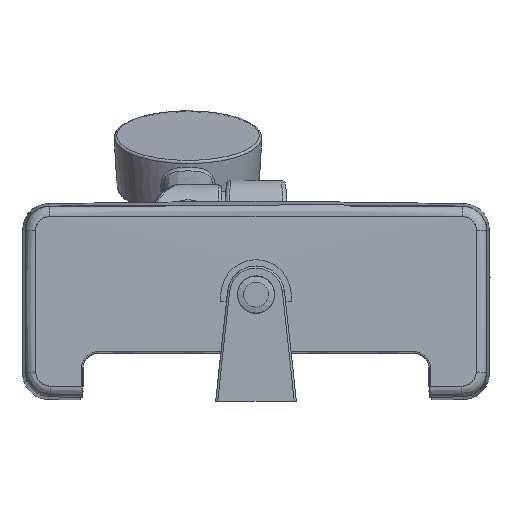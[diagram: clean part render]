
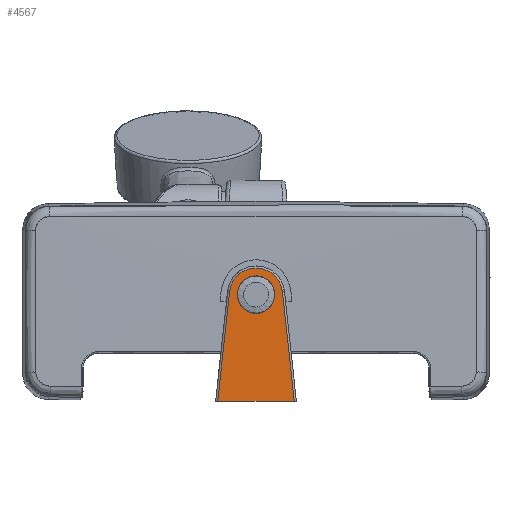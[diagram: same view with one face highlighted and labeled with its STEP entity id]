
A CAD part, front view. The second image highlights one B-rep face of the part: STEP entity #4567.
In plain terms, the highlighted planar face has unit normal (0, -1, 0).
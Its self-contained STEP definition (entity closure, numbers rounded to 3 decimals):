
#19 = EDGE_CURVE ( 'NONE', #12137, #12137, #8511, .T. ) ;
#152 = VECTOR ( 'NONE', #1167, 1000. ) ;
#327 = VERTEX_POINT ( 'NONE', #3715 ) ;
#415 = LINE ( 'NONE', #7618, #152 ) ;
#689 = PLANE ( 'NONE',  #16678 ) ;
#1167 = DIRECTION ( 'NONE',  ( -0.108, 0., -0.994 ) ) ;
#2013 = EDGE_CURVE ( 'NONE', #327, #14890, #415, .T. ) ;
#2268 = DIRECTION ( 'NONE',  ( 1., 0., 0. ) ) ;
#2649 = EDGE_CURVE ( 'NONE', #8306, #17298, #18267, .T. ) ;
#3715 = CARTESIAN_POINT ( 'NONE',  ( -12.502, -350.5, 51.864 ) ) ;
#4362 = ORIENTED_EDGE ( 'NONE', *, *, #2649, .T. ) ;
#4488 = DIRECTION ( 'NONE',  ( -1., 0., 0. ) ) ;
#4567 = ADVANCED_FACE ( 'NONE', ( #13101, #12214 ), #689, .F. ) ;
#5368 = CARTESIAN_POINT ( 'NONE',  ( 0., -350.5, 50.5 ) ) ;
#6977 = ORIENTED_EDGE ( 'NONE', *, *, #19, .T. ) ;
#7618 = CARTESIAN_POINT ( 'NONE',  ( -18.173, -350.5, -0.128 ) ) ;
#7797 = EDGE_LOOP ( 'NONE', ( #6977 ) ) ;
#7975 = CARTESIAN_POINT ( 'NONE',  ( 12.502, -350.5, 51.864 ) ) ;
#8208 = EDGE_CURVE ( 'NONE', #8306, #14890, #19320, .T. ) ;
#8300 = ORIENTED_EDGE ( 'NONE', *, *, #11441, .T. ) ;
#8306 = VERTEX_POINT ( 'NONE', #16716 ) ;
#8511 = CIRCLE ( 'NONE', #8902, 8.9 ) ;
#8797 = DIRECTION ( 'NONE',  ( 0., -1., 0. ) ) ;
#8902 = AXIS2_PLACEMENT_3D ( 'NONE', #11919, #11900, #11895 ) ;
#10251 = CARTESIAN_POINT ( 'NONE',  ( 12.502, -350.5, 51.864 ) ) ;
#10679 = CARTESIAN_POINT ( 'NONE',  ( -19.167, -350.5, -0.02 ) ) ;
#11441 = EDGE_CURVE ( 'NONE', #17298, #327, #14976, .T. ) ;
#11575 = DIRECTION ( 'NONE',  ( 0., 1., 0. ) ) ;
#11754 = DIRECTION ( 'NONE',  ( -0.108, 0., 0.994 ) ) ;
#11895 = DIRECTION ( 'NONE',  ( 0., 0., 1. ) ) ;
#11900 = DIRECTION ( 'NONE',  ( 0., 1., 0. ) ) ;
#11919 = CARTESIAN_POINT ( 'NONE',  ( 0., -350.5, 50.5 ) ) ;
#12137 = VERTEX_POINT ( 'NONE', #19258 ) ;
#12214 = FACE_OUTER_BOUND ( 'NONE', #14345, .T. ) ;
#13101 = FACE_BOUND ( 'NONE', #7797, .T. ) ;
#14345 = EDGE_LOOP ( 'NONE', ( #8300, #17046, #18493, #4362 ) ) ;
#14890 = VERTEX_POINT ( 'NONE', #15963 ) ;
#14976 = CIRCLE ( 'NONE', #19018, 12.576 ) ;
#15963 = CARTESIAN_POINT ( 'NONE',  ( -18.161, -350.5, -0.02 ) ) ;
#16678 = AXIS2_PLACEMENT_3D ( 'NONE', #5368, #11575, #2268 ) ;
#16716 = CARTESIAN_POINT ( 'NONE',  ( 18.161, -350.5, -0.02 ) ) ;
#17046 = ORIENTED_EDGE ( 'NONE', *, *, #2013, .T. ) ;
#17298 = VERTEX_POINT ( 'NONE', #7975 ) ;
#17550 = CARTESIAN_POINT ( 'NONE',  ( 0., -350.5, 50.5 ) ) ;
#18248 = VECTOR ( 'NONE', #11754, 1000. ) ;
#18267 = LINE ( 'NONE', #10251, #18248 ) ;
#18493 = ORIENTED_EDGE ( 'NONE', *, *, #8208, .F. ) ;
#19018 = AXIS2_PLACEMENT_3D ( 'NONE', #17550, #8797, #19023 ) ;
#19023 = DIRECTION ( 'NONE',  ( 1., 0., 0. ) ) ;
#19258 = CARTESIAN_POINT ( 'NONE',  ( 0., -350.5, 59.4 ) ) ;
#19320 = LINE ( 'NONE', #10679, #19497 ) ;
#19497 = VECTOR ( 'NONE', #4488, 1000. ) ;
